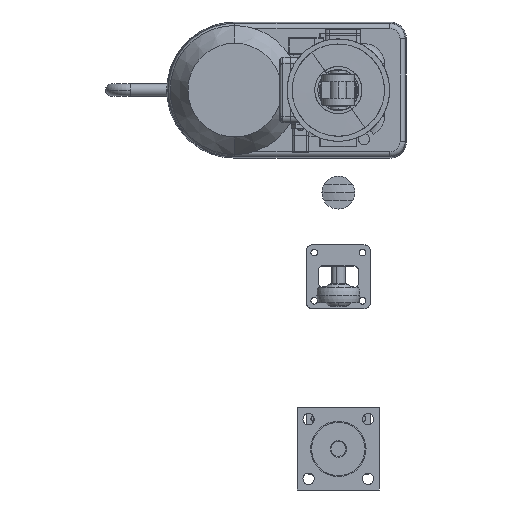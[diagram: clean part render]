
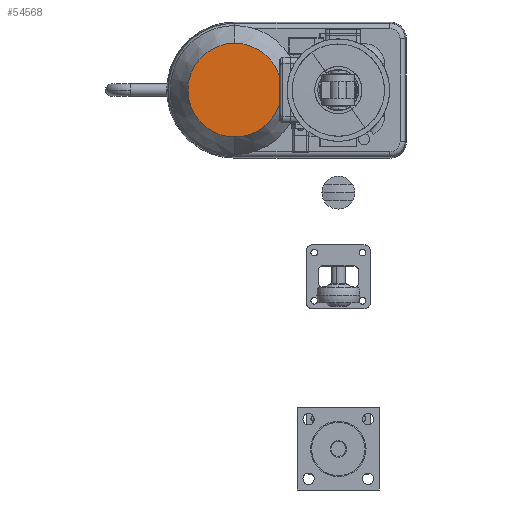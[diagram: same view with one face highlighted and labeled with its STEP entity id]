
A CAD part, left-side view. The second image highlights one B-rep face of the part: STEP entity #54568.
In plain terms, the highlighted planar face has unit normal (-1, 0, 0) as drawn and (0, 0, -1) by its records, which use the part's own axes.
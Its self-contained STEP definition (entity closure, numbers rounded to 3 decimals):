
#3838 = CARTESIAN_POINT ( 'NONE',  ( 28.722, 66.701, -262.569 ) ) ;
#3974 = CARTESIAN_POINT ( 'NONE',  ( -62.637, 66.701, -262.569 ) ) ;
#7019 = VERTEX_POINT ( 'NONE', #3838 ) ;
#7288 = VERTEX_POINT ( 'NONE', #3974 ) ;
#7327 = ORIENTED_EDGE ( 'NONE', *, *, #38230, .F. ) ;
#7328 = ORIENTED_EDGE ( 'NONE', *, *, #38149, .F. ) ;
#20289 = AXIS2_PLACEMENT_3D ( 'NONE', #23408, #23413, #23414 ) ;
#22400 = FACE_OUTER_BOUND ( 'NONE', #37637, .T. ) ;
#23408 = CARTESIAN_POINT ( 'NONE',  ( -16.958, 112.38, -262.569 ) ) ;
#23410 = PLANE ( 'NONE',  #20289 ) ;
#23413 = DIRECTION ( 'NONE',  ( 0., 0., 1. ) ) ;
#23414 = DIRECTION ( 'NONE',  ( 1., 0., 0. ) ) ;
#37637 = EDGE_LOOP ( 'NONE', ( #7328, #7327 ) ) ;
#38149 = EDGE_CURVE ( 'NONE', #7019, #7288, #47605, .T. ) ;
#38230 = EDGE_CURVE ( 'NONE', #7288, #7019, #47644, .T. ) ;
#45967 = CARTESIAN_POINT ( 'NONE',  ( -16.958, 66.701, -262.569 ) ) ;
#45969 = DIRECTION ( 'NONE',  ( 0., 0., 1. ) ) ;
#45971 = DIRECTION ( 'NONE',  ( 1., 0., 0. ) ) ;
#46169 = CARTESIAN_POINT ( 'NONE',  ( -16.958, 66.701, -262.569 ) ) ;
#46171 = DIRECTION ( 'NONE',  ( 0., 0., 1. ) ) ;
#46172 = DIRECTION ( 'NONE',  ( 1., 0., 0. ) ) ;
#47605 = CIRCLE ( 'NONE', #63441, 45.679 ) ;
#47644 = CIRCLE ( 'NONE', #63417, 45.679 ) ;
#54568 = ADVANCED_FACE ( 'NONE', ( #22400 ), #23410, .F. ) ;
#63417 = AXIS2_PLACEMENT_3D ( 'NONE', #46169, #46171, #46172 ) ;
#63441 = AXIS2_PLACEMENT_3D ( 'NONE', #45967, #45969, #45971 ) ;
